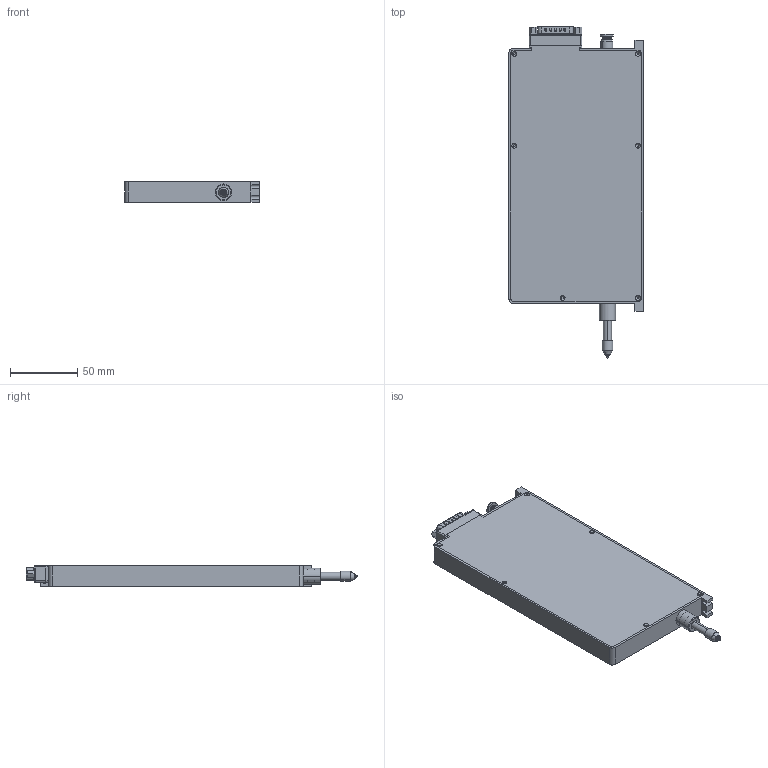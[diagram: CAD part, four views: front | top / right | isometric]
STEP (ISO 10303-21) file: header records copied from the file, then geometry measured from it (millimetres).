
FILE_DESCRIPTION (( 'STEP AP214' ), '1' );
FILE_NAME ('ZRADM6-15-S20-EC.STEP', '2023-10-13T10:53:53', ( 'XZOS' ), ( 'MS' ), 'SwSTEP 2.0', 'SolidWorks 2019', '' );
FILE_SCHEMA (( 'AUTOMOTIVE_DESIGN' ));
Length unit declared in the file: millimetre
Products named in the file (12): 揹諳諉芛假蚾翐_1_1; ZRADM6-15-S20-003_1; 5mil-14mm萇躂柲郲_1_1; ZRADM6-15-S20-005_1; POC4M5-S_1_1; ZRADM-6-16-S20-020_1; ZRADM6-15-S20-006_1; ZRADM6-15-S20-019_1; ZRADM6-15-S20-EC; UDB26-PCB_1_1; ZRADM6-15-S20-008_1; ZRADM6-15-S20-001_1
Assembly tree (12 placements, depth 2):
  ZRADM6-15-S20-EC
    ZRADM6-15-S20-001_1
    ZRADM6-15-S20-003_1
    ZRADM6-15-S20-005_1
    ZRADM6-15-S20-006_1
    ZRADM6-15-S20-008_1
    ZRADM6-15-S20-019_1
    ZRADM-6-16-S20-020_1
    UDB26-PCB_1_1
    POC4M5-S_1_1
    揹諳諉芛假蚾翐_1_1  x2
    5mil-14mm萇躂柲郲_1_1
Bounding box: 100 x 247.6 x 15.5 mm (x, y, z)
Volume: 302248.4 mm3; surface area: 101077.6 mm2
Topology: 12 solids, 12 shells, 1161 faces, 2726 edges, 1611 vertices
Faces by surface type: cylinder 564, bspline 277, plane 252, cone 68
Entity records: 51146 total; most frequent: CARTESIAN_POINT 13210, ORIENTED_EDGE 5204, DIRECTION 5192, EDGE_CURVE 2602, AXIS2_PLACEMENT_3D 2058, VERTEX_POINT 1590, EDGE_LOOP 1300, UNCERTAINTY_MEASURE_WITH_UNIT 1180
